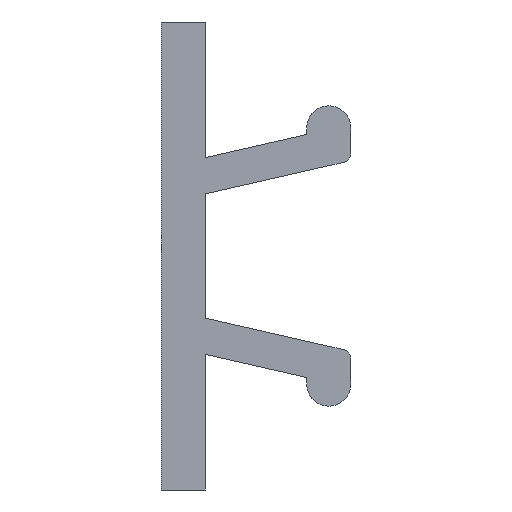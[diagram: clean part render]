
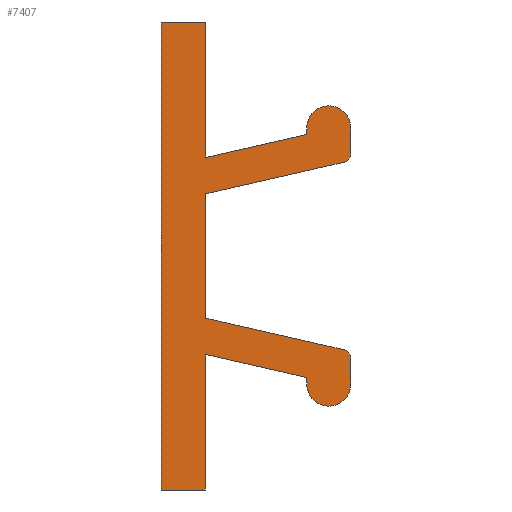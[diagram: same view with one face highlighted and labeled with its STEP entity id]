
A CAD part, front view. The second image highlights one B-rep face of the part: STEP entity #7407.
In plain terms, the highlighted planar face has unit normal (0, -1, 0).
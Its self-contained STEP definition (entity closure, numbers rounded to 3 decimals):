
#3959=CARTESIAN_POINT('',(0.,-50.6,-5.3));
#3960=VERTEX_POINT('',#3959);
#3967=CARTESIAN_POINT('',(0.,-50.6,5.3));
#3968=VERTEX_POINT('',#3967);
#3969=CARTESIAN_POINT('',(0.,-50.6,-5.3));
#3970=DIRECTION('',(0.,0.,1.));
#3971=VECTOR('',#3970,10.6);
#3972=LINE('',#3969,#3971);
#3973=EDGE_CURVE('',#3960,#3968,#3972,.T.);
#4305=CARTESIAN_POINT('',(1.,-50.6,1.408));
#4306=VERTEX_POINT('',#4305);
#4313=CARTESIAN_POINT('',(1.,-50.6,-1.408));
#4314=VERTEX_POINT('',#4313);
#4315=CARTESIAN_POINT('',(1.,-50.6,1.408));
#4316=DIRECTION('',(0.,0.,-1.));
#4317=VECTOR('',#4316,2.816);
#4318=LINE('',#4315,#4317);
#4319=EDGE_CURVE('',#4306,#4314,#4318,.T.);
#4543=CARTESIAN_POINT('',(1.,-50.6,2.228));
#4544=VERTEX_POINT('',#4543);
#4545=CARTESIAN_POINT('',(3.3,-50.6,2.751));
#4546=VERTEX_POINT('',#4545);
#4547=CARTESIAN_POINT('',(1.,-50.6,2.228));
#4548=DIRECTION('',(0.975,0.,0.222));
#4549=VECTOR('',#4548,2.359);
#4550=LINE('',#4547,#4549);
#4551=EDGE_CURVE('',#4544,#4546,#4550,.T.);
#4781=CARTESIAN_POINT('',(3.3,-50.6,2.9));
#4782=VERTEX_POINT('',#4781);
#4783=CARTESIAN_POINT('',(3.3,-50.6,2.751));
#4784=DIRECTION('',(0.,0.,1.));
#4785=VECTOR('',#4784,0.149);
#4786=LINE('',#4783,#4785);
#4787=EDGE_CURVE('',#4546,#4782,#4786,.T.);
#4965=CARTESIAN_POINT('',(4.3,-50.6,2.9));
#4966=VERTEX_POINT('',#4965);
#4967=CARTESIAN_POINT('',(3.8,-50.6,2.9));
#4968=DIRECTION('',(-1.,0.,0.));
#4969=DIRECTION('',(0.,1.,0.));
#4970=AXIS2_PLACEMENT_3D('',#4967,#4969,#4968);
#4971=CIRCLE('',#4970,0.5);
#4972=EDGE_CURVE('',#4782,#4966,#4971,.T.);
#5151=CARTESIAN_POINT('',(4.3,-50.6,2.318));
#5152=VERTEX_POINT('',#5151);
#5153=CARTESIAN_POINT('',(4.3,-50.6,2.9));
#5154=DIRECTION('',(0.,0.,-1.));
#5155=VECTOR('',#5154,0.582);
#5156=LINE('',#5153,#5155);
#5157=EDGE_CURVE('',#4966,#5152,#5156,.T.);
#5335=CARTESIAN_POINT('',(4.144,-50.6,2.123));
#5336=VERTEX_POINT('',#5335);
#5337=CARTESIAN_POINT('',(4.1,-50.6,2.318));
#5338=DIRECTION('',(1.,0.,0.));
#5339=DIRECTION('',(0.,1.,0.));
#5340=AXIS2_PLACEMENT_3D('',#5337,#5339,#5338);
#5341=CIRCLE('',#5340,0.2);
#5342=EDGE_CURVE('',#5152,#5336,#5341,.T.);
#5521=CARTESIAN_POINT('',(4.144,-50.6,2.123));
#5522=DIRECTION('',(-0.975,0.,-0.222));
#5523=VECTOR('',#5522,3.225);
#5524=LINE('',#5521,#5523);
#5525=EDGE_CURVE('',#5336,#4306,#5524,.T.);
#5651=CARTESIAN_POINT('',(4.144,-50.6,-2.123));
#5652=VERTEX_POINT('',#5651);
#5653=CARTESIAN_POINT('',(1.,-50.6,-1.408));
#5654=DIRECTION('',(0.975,0.,-0.222));
#5655=VECTOR('',#5654,3.225);
#5656=LINE('',#5653,#5655);
#5657=EDGE_CURVE('',#4314,#5652,#5656,.T.);
#5835=CARTESIAN_POINT('',(4.3,-50.6,-2.318));
#5836=VERTEX_POINT('',#5835);
#5837=CARTESIAN_POINT('',(4.1,-50.6,-2.318));
#5838=DIRECTION('',(0.222,0.,0.975));
#5839=DIRECTION('',(0.,1.,0.));
#5840=AXIS2_PLACEMENT_3D('',#5837,#5839,#5838);
#5841=CIRCLE('',#5840,0.2);
#5842=EDGE_CURVE('',#5652,#5836,#5841,.T.);
#6021=CARTESIAN_POINT('',(4.3,-50.6,-2.9));
#6022=VERTEX_POINT('',#6021);
#6023=CARTESIAN_POINT('',(4.3,-50.6,-2.318));
#6024=DIRECTION('',(0.,0.,-1.));
#6025=VECTOR('',#6024,0.582);
#6026=LINE('',#6023,#6025);
#6027=EDGE_CURVE('',#5836,#6022,#6026,.T.);
#6205=CARTESIAN_POINT('',(3.3,-50.6,-2.9));
#6206=VERTEX_POINT('',#6205);
#6207=CARTESIAN_POINT('',(3.8,-50.6,-2.9));
#6208=DIRECTION('',(1.,0.,0.));
#6209=DIRECTION('',(0.,1.,0.));
#6210=AXIS2_PLACEMENT_3D('',#6207,#6209,#6208);
#6211=CIRCLE('',#6210,0.5);
#6212=EDGE_CURVE('',#6022,#6206,#6211,.T.);
#6391=CARTESIAN_POINT('',(3.3,-50.6,-2.751));
#6392=VERTEX_POINT('',#6391);
#6393=CARTESIAN_POINT('',(3.3,-50.6,-2.9));
#6394=DIRECTION('',(0.,0.,1.));
#6395=VECTOR('',#6394,0.149);
#6396=LINE('',#6393,#6395);
#6397=EDGE_CURVE('',#6206,#6392,#6396,.T.);
#6575=CARTESIAN_POINT('',(1.,-50.6,-2.228));
#6576=VERTEX_POINT('',#6575);
#6577=CARTESIAN_POINT('',(3.3,-50.6,-2.751));
#6578=DIRECTION('',(-0.975,0.,0.222));
#6579=VECTOR('',#6578,2.359);
#6580=LINE('',#6577,#6579);
#6581=EDGE_CURVE('',#6392,#6576,#6580,.T.);
#6759=CARTESIAN_POINT('',(1.,-50.6,5.3));
#6760=VERTEX_POINT('',#6759);
#6761=CARTESIAN_POINT('',(1.,-50.6,5.3));
#6762=DIRECTION('',(0.,0.,-1.));
#6763=VECTOR('',#6762,3.072);
#6764=LINE('',#6761,#6763);
#6765=EDGE_CURVE('',#6760,#4544,#6764,.T.);
#6943=CARTESIAN_POINT('',(1.,-50.6,-5.3));
#6944=VERTEX_POINT('',#6943);
#6945=CARTESIAN_POINT('',(1.,-50.6,-2.228));
#6946=DIRECTION('',(0.,0.,-1.));
#6947=VECTOR('',#6946,3.072);
#6948=LINE('',#6945,#6947);
#6949=EDGE_CURVE('',#6576,#6944,#6948,.T.);
#7127=CARTESIAN_POINT('',(1.,-50.6,-5.3));
#7128=DIRECTION('',(-1.,0.,0.));
#7129=VECTOR('',#7128,1.);
#7130=LINE('',#7127,#7129);
#7131=EDGE_CURVE('',#6944,#3960,#7130,.T.);
#7257=CARTESIAN_POINT('',(0.,-50.6,5.3));
#7258=DIRECTION('',(1.,0.,0.));
#7259=VECTOR('',#7258,1.);
#7260=LINE('',#7257,#7259);
#7261=EDGE_CURVE('',#3968,#6760,#7260,.T.);
#7382=CARTESIAN_POINT('',(2.15,-50.6,0.));
#7383=DIRECTION('',(1.,0.,0.));
#7384=DIRECTION('',(0.,-1.,0.));
#7385=AXIS2_PLACEMENT_3D('',#7382,#7384,#7383);
#7386=PLANE('',#7385);
#7387=ORIENTED_EDGE('',*,*,#7261,.F.);
#7388=ORIENTED_EDGE('',*,*,#3973,.F.);
#7389=ORIENTED_EDGE('',*,*,#7131,.F.);
#7390=ORIENTED_EDGE('',*,*,#6949,.F.);
#7391=ORIENTED_EDGE('',*,*,#6581,.F.);
#7392=ORIENTED_EDGE('',*,*,#6397,.F.);
#7393=ORIENTED_EDGE('',*,*,#6212,.F.);
#7394=ORIENTED_EDGE('',*,*,#6027,.F.);
#7395=ORIENTED_EDGE('',*,*,#5842,.F.);
#7396=ORIENTED_EDGE('',*,*,#5657,.F.);
#7397=ORIENTED_EDGE('',*,*,#4319,.F.);
#7398=ORIENTED_EDGE('',*,*,#5525,.F.);
#7399=ORIENTED_EDGE('',*,*,#5342,.F.);
#7400=ORIENTED_EDGE('',*,*,#5157,.F.);
#7401=ORIENTED_EDGE('',*,*,#4972,.F.);
#7402=ORIENTED_EDGE('',*,*,#4787,.F.);
#7403=ORIENTED_EDGE('',*,*,#4551,.F.);
#7404=ORIENTED_EDGE('',*,*,#6765,.F.);
#7405=EDGE_LOOP('',(#7387,#7388,#7389,#7390,#7391,#7392,#7393,#7394,#7395,#7396,#7397,#7398,#7399,#7400,#7401,#7402,#7403,#7404));
#7406=FACE_OUTER_BOUND('',#7405,.T.);
#7407=ADVANCED_FACE('F235',(#7406),#7386,.T.);
